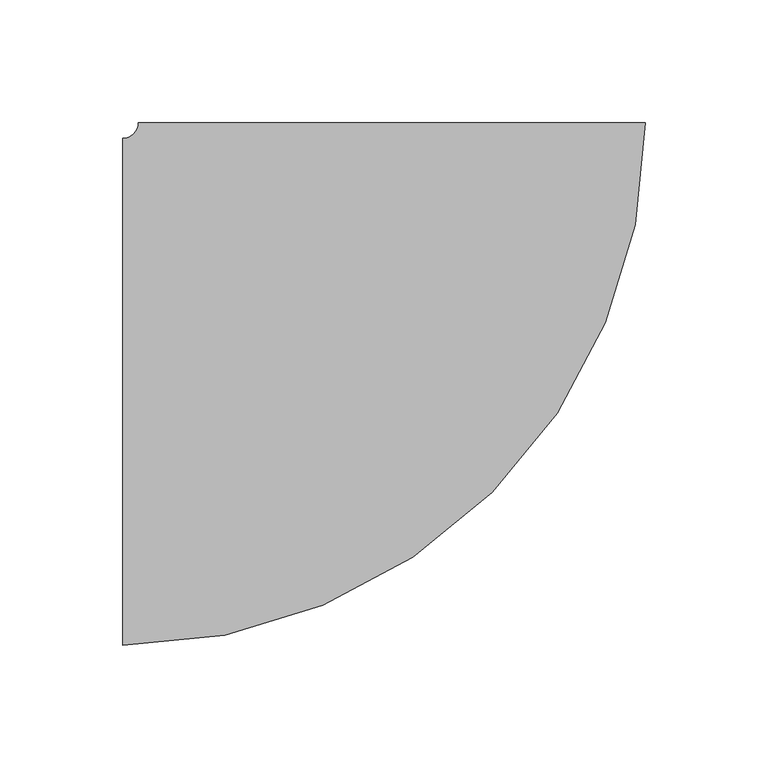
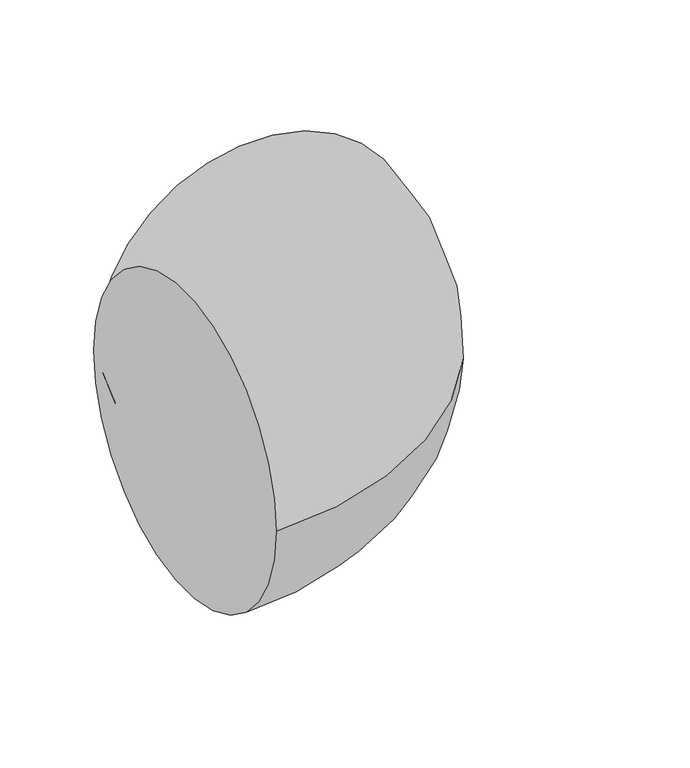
"""IFC4 building model written with IfcOpenShell, lengths in millimetres: pipe fitting geometry, M_Codo - Genérico : Estándar."""

from ifc_helpers import new_model, si_unit, point, frame, origin, place, context, project, spatial, circle_curve, ellipse_curve, trimmed, source, transform, mapped, element, save
from ifc_brep_helpers import plane_surface, revolved_surface, advanced_brep


def pipe_fitting_6271dc1d(model_context):
    return source(origin(), model_context, "Body", "AdvancedBrep", [
        advanced_brep(
        [(-109.5375253, -103.1875, 0.0), (-109.5375253, 103.1875, 0.0), (103.1874747, 109.5375492, 0.0), (-103.1875253, 109.5375015, 0.0)],
        [
            (0, 1, circle_curve(frame((-109.5375253, 0.0, 0.0), z_axis=(-1.0, 0.0, 0.0), x_axis=(0.0, 1.0, 0.0)), 103.1875)),
            (1, 0, circle_curve(frame((-109.5375253, 0.0, 0.0), z_axis=(-1.0, 0.0, 0.0), x_axis=(0.0, 1.0, 0.0)), 103.1875)),
            (2, 3, circle_curve(frame((-2.53e-05, 109.5375253, 0.0), z_axis=(-2.3108848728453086e-07, 0.9999999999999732, 0.0), x_axis=(-0.9999999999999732, -2.3108848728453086e-07, 0.0)), 103.1875)),
            (3, 2, circle_curve(frame((-2.53e-05, 109.5375253, 0.0), z_axis=(-2.3108848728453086e-07, 0.9999999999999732, 0.0), x_axis=(-0.9999999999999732, -2.3108848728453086e-07, 0.0)), 103.1875)),
            (3, 1, circle_curve(frame((-109.5375253, 109.5375, 0.0), z_axis=(0.0, 0.0, -1.0), x_axis=(0.0, -1.0, 0.0)), 6.35)),
            (0, 2, circle_curve(frame((-109.5375253, 109.5375, 0.0), z_axis=(0.0, 0.0, 1.0), x_axis=(0.0, -1.0, 0.0)), 212.725)),
        ],
        [
            plane_surface(frame((-109.5375253, 0.0, 0.0), z_axis=(-1.0, 0.0, 0.0), x_axis=(0.0, 0.0, 1.0))),
            plane_surface(frame((-2.53e-05, 109.5375253, 0.0), z_axis=(-2.310884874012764e-07, 0.9999999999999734, 0.0), x_axis=(0.0, 0.0, 1.0))),
            revolved_surface(trimmed(ellipse_curve(frame((-109.5375253, 0.0, 0.0), z_axis=(-1.0, 0.0, 0.0), x_axis=(0.0, 1.0, 0.0)), 103.1875, 103.1875), [point((-109.5375253, -103.1875, 0.0))], [point((-109.5375253, 103.1875, 0.0))], True, "CARTESIAN"), (-109.5375253, 109.5375, 0.0), (0.0, 0.0, 1.0)),
            revolved_surface(trimmed(ellipse_curve(frame((-109.5375253, 0.0, 0.0), z_axis=(-1.0, 0.0, 0.0), x_axis=(0.0, 1.0, 0.0)), 103.1875, 103.1875), [point((-109.5375253, 103.1875, 0.0))], [point((-109.5375253, -103.1875, 0.0))], True, "CARTESIAN"), (-109.5375253, 109.5375, 0.0), (0.0, 0.0, 1.0)),
        ],
        [
            (0, [[1, 2]]),
            (1, [[3, 4]]),
            (2, [[5, -1, 6, -4]]),
            (3, [[-6, -2, -5, -3]]),
        ],
    ),
    ])


if __name__ == "__main__":
    model = new_model("IFC4")
    model_context = context("Model", 3, world=origin())
    ifc_project = project(units=[si_unit("LENGTHUNIT", "METRE", prefix="MILLI")], contexts=[model_context])
    site = spatial("IfcSite", under=ifc_project)
    building = spatial("IfcBuilding", under=site)
    placement = place(None, origin())
    pipe_fitting_shape = pipe_fitting_6271dc1d(model_context)
    element("IfcPipeFitting", 1, ObjectType="M_Codo - Genérico : Estándar", at=placement, inside=building, context=model_context, shape_type="MappedRepresentation", body=[
        mapped(pipe_fitting_shape, transform((0.0, 0.0, 0.0), x_axis=(1.0, 0.0, 0.0), y_axis=(0.0, 1.0, 0.0), z_axis=(0.0, 0.0, 1.0))),
    ])
    save(model, "model.ifc")
